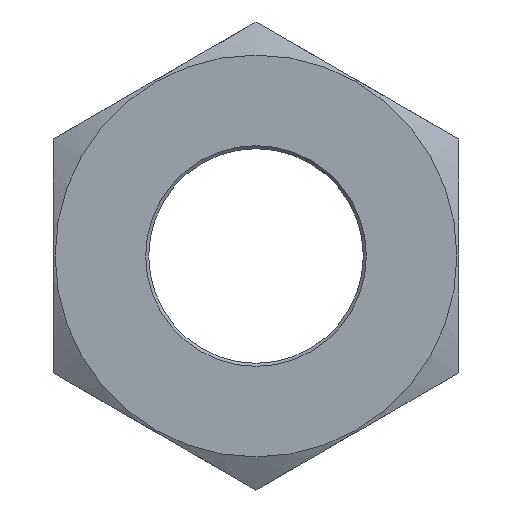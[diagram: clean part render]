
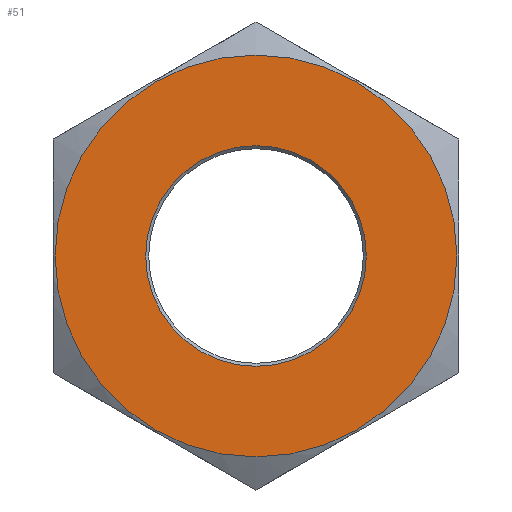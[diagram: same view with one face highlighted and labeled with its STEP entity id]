
A CAD part, left-side view. The second image highlights one B-rep face of the part: STEP entity #51.
In plain terms, the highlighted planar face has unit normal (-1, 0, 0).
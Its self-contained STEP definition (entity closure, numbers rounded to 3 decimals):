
#51 = ADVANCED_FACE( '', ( #109, #110 ), #111, .T. );
#109 = FACE_BOUND( '', #178, .T. );
#110 = FACE_OUTER_BOUND( '', #179, .T. );
#111 = PLANE( '', #180 );
#178 = EDGE_LOOP( '', ( #265 ) );
#179 = EDGE_LOOP( '', ( #266 ) );
#180 = AXIS2_PLACEMENT_3D( '', #267, #268, #269 );
#265 = ORIENTED_EDGE( '', *, *, #369, .T. );
#266 = ORIENTED_EDGE( '', *, *, #370, .T. );
#267 = CARTESIAN_POINT( '', ( -20.7, -13.5, -7.794 ) );
#268 = DIRECTION( '', ( -1., 0., 0. ) );
#269 = DIRECTION( '', ( 0., -1., 0. ) );
#369 = EDGE_CURVE( '', #427, #427, #428, .F. );
#370 = EDGE_CURVE( '', #429, #429, #430, .T. );
#427 = VERTEX_POINT( '', #598 );
#428 = CIRCLE( '', #599, 7.35 );
#429 = VERTEX_POINT( '', #600 );
#430 = CIRCLE( '', #601, 13.388 );
#598 = CARTESIAN_POINT( '', ( -20.7, -7.35, 0. ) );
#599 = AXIS2_PLACEMENT_3D( '', #675, #676, #677 );
#600 = CARTESIAN_POINT( '', ( -20.7, 0., 13.388 ) );
#601 = AXIS2_PLACEMENT_3D( '', #678, #679, #680 );
#675 = CARTESIAN_POINT( '', ( -20.7, 0., 0. ) );
#676 = DIRECTION( '', ( -1., 0., 0. ) );
#677 = DIRECTION( '', ( 0., -1., 0. ) );
#678 = CARTESIAN_POINT( '', ( -20.7, 0., 0. ) );
#679 = DIRECTION( '', ( -1., 0., 0. ) );
#680 = DIRECTION( '', ( 0., 0., 1. ) );
